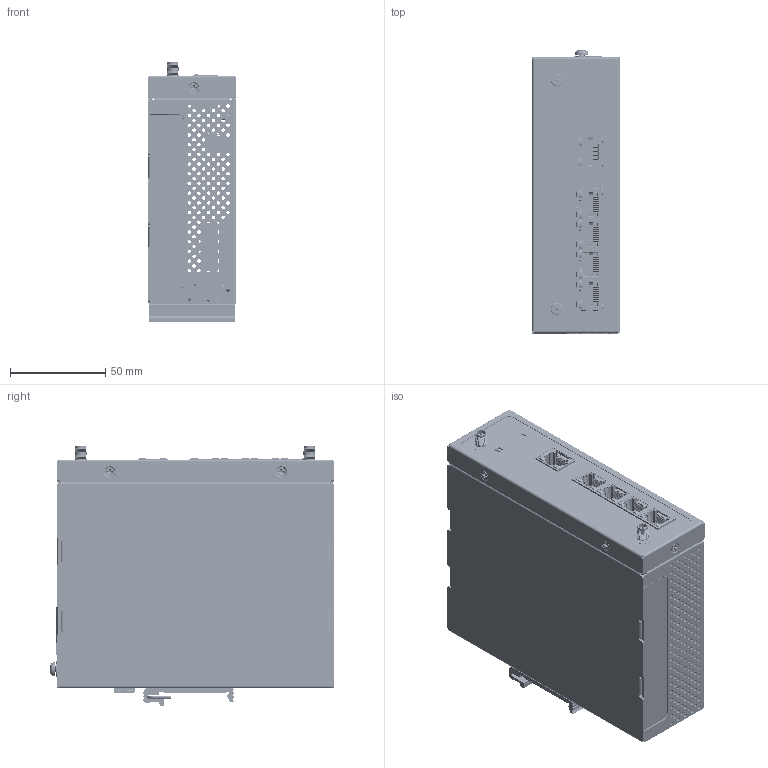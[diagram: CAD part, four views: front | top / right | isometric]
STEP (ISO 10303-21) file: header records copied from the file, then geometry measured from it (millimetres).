
FILE_DESCRIPTION (( 'STEP AP203' ), '1' );
FILE_NAME ('AWR5805.STEP', '2022-11-15T07:01:57', ( '' ), ( '' ), 'SwSTEP 2.0', 'SolidWorks 2020', '' );
FILE_SCHEMA (( 'CONFIG_CONTROL_DESIGN' ));
Products named in the file (1): AWR5805
Bounding box: 46 x 148.7 x 136.2 mm (x, y, z)
Surface area: 164113.7 mm2 (no closed solid volume)
Topology: 0 solids, 18 shells, 12530 faces, 35504 edges, 23155 vertices
Faces by surface type: plane 8539, cylinder 2945, bspline 488, torus 271, cone 263, sphere 24
Entity records: 473920 total; most frequent: CARTESIAN_POINT 150754, ORIENTED_EDGE 70852, DIRECTION 61475, EDGE_CURVE 35454, LINE 25401, VECTOR 25401, VERTEX_POINT 23141, AXIS2_PLACEMENT_3D 18037
